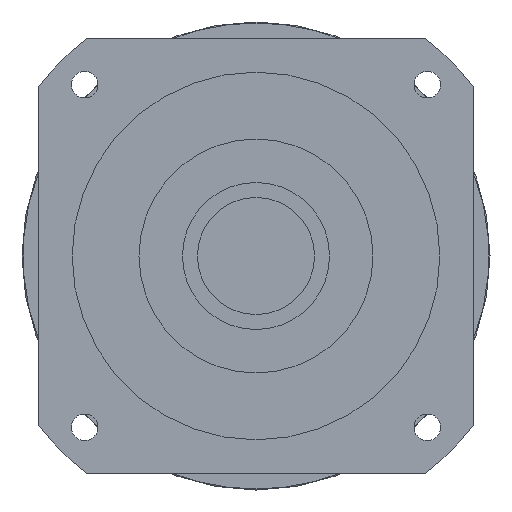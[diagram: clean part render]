
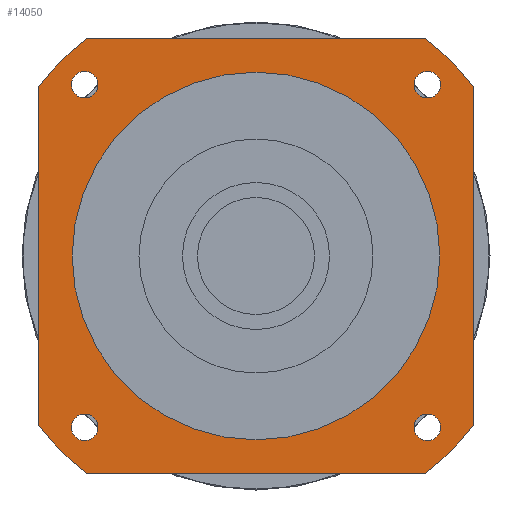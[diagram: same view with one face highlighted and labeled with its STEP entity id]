
A CAD part, left-side view. The second image highlights one B-rep face of the part: STEP entity #14050.
In plain terms, the highlighted planar face has unit normal (-1, 0, 0) as drawn and (0, 0, -1) by its records, which use the part's own axes.
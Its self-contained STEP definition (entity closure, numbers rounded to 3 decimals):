
#12350=CARTESIAN_POINT('',(55.265,-51.265,-87.7));
#12360=VERTEX_POINT('',#12350);
#12390=CARTESIAN_POINT('',(51.265,-51.265,-87.7));
#12400=DIRECTION('',(0.,0.,-1.));
#12410=DIRECTION('',(1.,0.,0.));
#12420=AXIS2_PLACEMENT_3D('',#12390,#12400,#12410);
#12430=CIRCLE('',#12420,4.);
#12440=CARTESIAN_POINT('',(47.265,-51.265,-87.7));
#12450=VERTEX_POINT('',#12440);
#12460=EDGE_CURVE('',#12450,#12360,#12430,.T.);
#12610=CARTESIAN_POINT('',(65.,65.,-87.7));
#12620=DIRECTION('',(0.,0.,-1.));
#12630=DIRECTION('',(1.,0.,0.));
#12640=AXIS2_PLACEMENT_3D('',#12610,#12620,#12630);
#12650=PLANE('',#12640);
#12660=CARTESIAN_POINT('',(-51.265,-51.265,-87.7));
#12670=DIRECTION('',(0.,0.,-1.));
#12680=DIRECTION('',(0.,-1.,0.));
#12690=AXIS2_PLACEMENT_3D('',#12660,#12670,#12680);
#12700=CIRCLE('',#12690,4.);
#12710=CARTESIAN_POINT('',(-51.265,-55.265,-87.7));
#12720=VERTEX_POINT('',#12710);
#12730=CARTESIAN_POINT('',(-51.265,-47.265,-87.7));
#12740=VERTEX_POINT('',#12730);
#12750=EDGE_CURVE('',#12720,#12740,#12700,.T.);
#12760=ORIENTED_EDGE('',*,*,#12750,.F.);
#12770=EDGE_CURVE('',#12740,#12720,#12700,.T.);
#12780=ORIENTED_EDGE('',*,*,#12770,.F.);
#12790=EDGE_LOOP('',(#12780,#12760));
#12800=FACE_BOUND('',#12790,.T.);
#12810=CARTESIAN_POINT('',(-51.265,51.265,-87.7));
#12820=DIRECTION('',(0.,0.,-1.));
#12830=DIRECTION('',(-1.,0.,0.));
#12840=AXIS2_PLACEMENT_3D('',#12810,#12820,#12830);
#12850=CIRCLE('',#12840,4.);
#12860=CARTESIAN_POINT('',(-55.265,51.265,-87.7));
#12870=VERTEX_POINT('',#12860);
#12880=CARTESIAN_POINT('',(-47.265,51.265,-87.7));
#12890=VERTEX_POINT('',#12880);
#12900=EDGE_CURVE('',#12870,#12890,#12850,.T.);
#12910=ORIENTED_EDGE('',*,*,#12900,.F.);
#12920=EDGE_CURVE('',#12890,#12870,#12850,.T.);
#12930=ORIENTED_EDGE('',*,*,#12920,.F.);
#12940=EDGE_LOOP('',(#12930,#12910));
#12950=FACE_BOUND('',#12940,.T.);
#12960=CARTESIAN_POINT('',(51.265,51.265,-87.7));
#12970=DIRECTION('',(0.,0.,-1.));
#12980=DIRECTION('',(0.,1.,0.));
#12990=AXIS2_PLACEMENT_3D('',#12960,#12970,#12980);
#13000=CIRCLE('',#12990,4.);
#13010=CARTESIAN_POINT('',(51.265,55.265,-87.7));
#13020=VERTEX_POINT('',#13010);
#13030=CARTESIAN_POINT('',(51.265,47.265,-87.7));
#13040=VERTEX_POINT('',#13030);
#13050=EDGE_CURVE('',#13020,#13040,#13000,.T.);
#13060=ORIENTED_EDGE('',*,*,#13050,.F.);
#13070=EDGE_CURVE('',#13040,#13020,#13000,.T.);
#13080=ORIENTED_EDGE('',*,*,#13070,.F.);
#13090=EDGE_LOOP('',(#13080,#13060));
#13100=FACE_BOUND('',#13090,.T.);
#13110=CARTESIAN_POINT('',(0.,0.,
-87.7));
#13120=DIRECTION('',(0.,0.,1.));
#13130=DIRECTION('',(0.,1.,0.));
#13140=AXIS2_PLACEMENT_3D('',#13110,#13120,#13130);
#13150=CIRCLE('',#13140,55.);
#13160=CARTESIAN_POINT('',(-55.,0.,-87.7));
#13170=VERTEX_POINT('',#13160);
#13180=CARTESIAN_POINT('',(55.,0.,-87.7));
#13190=VERTEX_POINT('',#13180);
#13200=EDGE_CURVE('',#13170,#13190,#13150,.T.);
#13210=ORIENTED_EDGE('',*,*,#13200,.T.);
#13220=CARTESIAN_POINT('',(0.,55.,-87.7));
#13230=VERTEX_POINT('',#13220);
#13240=EDGE_CURVE('',#13230,#13170,#13150,.T.);
#13250=ORIENTED_EDGE('',*,*,#13240,.T.);
#13260=EDGE_CURVE('',#13190,#13230,#13150,.T.);
#13270=ORIENTED_EDGE('',*,*,#13260,.T.);
#13280=EDGE_LOOP('',(#13270,#13250,#13210));
#13290=FACE_BOUND('',#13280,.T.);
#13300=CARTESIAN_POINT('',(-65.,65.,-87.7));
#13310=DIRECTION('',(1.,0.,0.));
#13320=VECTOR('',#13310,1000.);
#13330=LINE('',#13300,#13320);
#13340=CARTESIAN_POINT('',(-50.806,65.,-87.7));
#13350=VERTEX_POINT('',#13340);
#13360=CARTESIAN_POINT('',(50.806,65.,-87.7));
#13370=VERTEX_POINT('',#13360);
#13380=EDGE_CURVE('',#13350,#13370,#13330,.T.);
#13390=ORIENTED_EDGE('',*,*,#13380,.T.);
#13400=CARTESIAN_POINT('',(0.,0.,
-87.7));
#13410=DIRECTION('',(0.,0.,-1.));
#13420=DIRECTION('',(1.,0.,0.));
#13430=AXIS2_PLACEMENT_3D('',#13400,#13410,#13420);
#13440=CIRCLE('',#13430,82.5);
#13450=CARTESIAN_POINT('',(-65.,50.806,-87.7));
#13460=VERTEX_POINT('',#13450);
#13470=EDGE_CURVE('',#13460,#13350,#13440,.T.);
#13480=ORIENTED_EDGE('',*,*,#13470,.T.);
#13490=CARTESIAN_POINT('',(-65.,-65.,-87.7));
#13500=DIRECTION('',(0.,1.,0.));
#13510=VECTOR('',#13500,1000.);
#13520=LINE('',#13490,#13510);
#13530=CARTESIAN_POINT('',(-65.,-50.806,-87.7));
#13540=VERTEX_POINT('',#13530);
#13550=EDGE_CURVE('',#13540,#13460,#13520,.T.);
#13560=ORIENTED_EDGE('',*,*,#13550,.T.);
#13570=CARTESIAN_POINT('',(0.,0.,
-87.7));
#13580=DIRECTION('',(0.,0.,-1.));
#13590=DIRECTION('',(1.,0.,0.));
#13600=AXIS2_PLACEMENT_3D('',#13570,#13580,#13590);
#13610=CIRCLE('',#13600,82.5);
#13620=CARTESIAN_POINT('',(-50.806,-65.,-87.7));
#13630=VERTEX_POINT('',#13620);
#13640=EDGE_CURVE('',#13630,#13540,#13610,.T.);
#13650=ORIENTED_EDGE('',*,*,#13640,.T.);
#13660=CARTESIAN_POINT('',(65.,-65.,-87.7));
#13670=DIRECTION('',(-1.,0.,0.));
#13680=VECTOR('',#13670,1000.);
#13690=LINE('',#13660,#13680);
#13700=CARTESIAN_POINT('',(50.806,-65.,-87.7));
#13710=VERTEX_POINT('',#13700);
#13720=EDGE_CURVE('',#13710,#13630,#13690,.T.);
#13730=ORIENTED_EDGE('',*,*,#13720,.T.);
#13740=CARTESIAN_POINT('',(0.,0.,
-87.7));
#13750=DIRECTION('',(0.,0.,-1.));
#13760=DIRECTION('',(1.,0.,0.));
#13770=AXIS2_PLACEMENT_3D('',#13740,#13750,#13760);
#13780=CIRCLE('',#13770,82.5);
#13790=CARTESIAN_POINT('',(65.,-50.806,-87.7));
#13800=VERTEX_POINT('',#13790);
#13810=EDGE_CURVE('',#13800,#13710,#13780,.T.);
#13820=ORIENTED_EDGE('',*,*,#13810,.T.);
#13830=CARTESIAN_POINT('',(65.,65.,-87.7));
#13840=DIRECTION('',(0.,-1.,0.));
#13850=VECTOR('',#13840,1000.);
#13860=LINE('',#13830,#13850);
#13870=CARTESIAN_POINT('',(65.,50.806,-87.7));
#13880=VERTEX_POINT('',#13870);
#13890=EDGE_CURVE('',#13880,#13800,#13860,.T.);
#13900=ORIENTED_EDGE('',*,*,#13890,.T.);
#13910=CARTESIAN_POINT('',(0.,0.,
-87.7));
#13920=DIRECTION('',(0.,0.,-1.));
#13930=DIRECTION('',(1.,0.,0.));
#13940=AXIS2_PLACEMENT_3D('',#13910,#13920,#13930);
#13950=CIRCLE('',#13940,82.5);
#13960=EDGE_CURVE('',#13370,#13880,#13950,.T.);
#13970=ORIENTED_EDGE('',*,*,#13960,.T.);
#13980=EDGE_LOOP('',(#13970,#13900,#13820,#13730,#13650,#13560,#13480,
#13390));
#13990=FACE_OUTER_BOUND('',#13980,.T.);
#14000=EDGE_CURVE('',#12360,#12450,#12430,.T.);
#14010=ORIENTED_EDGE('',*,*,#14000,.F.);
#14020=ORIENTED_EDGE('',*,*,#12460,.F.);
#14030=EDGE_LOOP('',(#14020,#14010));
#14040=FACE_BOUND('',#14030,.T.);
#14050=ADVANCED_FACE('',(#12800,#12950,#13100,#13290,#13990,#14040),
#12650,.T.);
